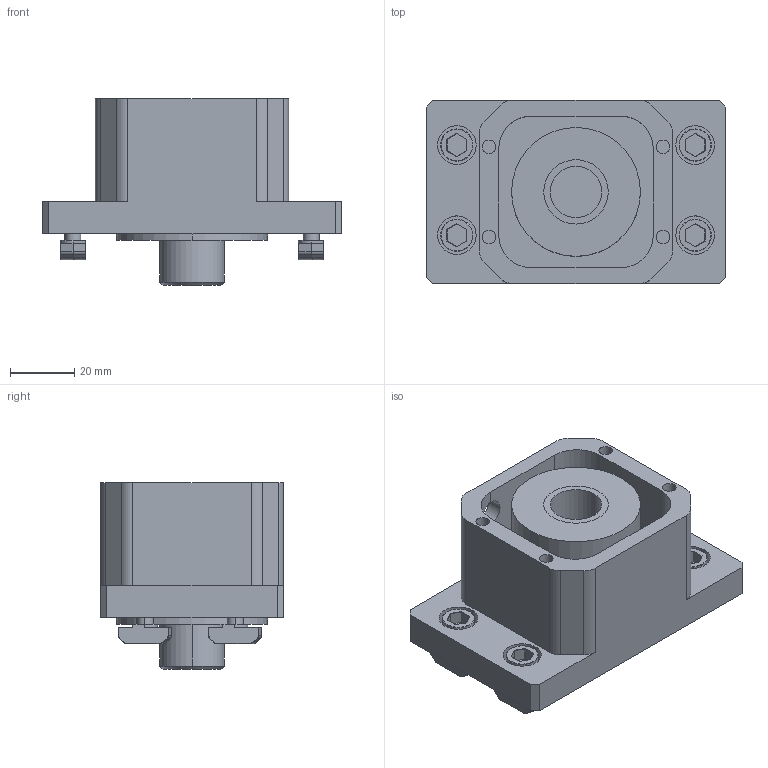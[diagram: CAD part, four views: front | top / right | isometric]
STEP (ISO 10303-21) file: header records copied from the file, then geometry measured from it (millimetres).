
FILE_DESCRIPTION((''),'2;1');
FILE_NAME('CK-60-X_ASM','2017-03-15T',('Owner'),(''),'PRO/ENGINEER BY PARAMETRIC TECHNOLOGY CORPORATION, 2009440','PRO/ENGINEER BY PARAMETRIC TECHNOLOGY CORPORATION, 2009440','');
FILE_SCHEMA(('CONFIG_CONTROL_DESIGN'));
Length unit declared in the file: millimetre
Products named in the file (4): CK-60-16; M6X10_COUNTERSINK; TN-M6; CK-60-X_ASM
Assembly tree (9 placements, depth 2):
  CK-60-X_ASM
    CK-60-16
    M6X10_COUNTERSINK  x4
    TN-M6  x4
Bounding box: 93 x 56.8 x 58 mm (x, y, z)
Volume: 129406.7 mm3; surface area: 39968.4 mm2
Topology: 9 solids, 10 shells, 501 faces, 1155 edges, 692 vertices
Faces by surface type: cylinder 232, plane 163, cone 42, sphere 24, torus 24, bspline 16
Entity records: 5898 total; most frequent: CARTESIAN_POINT 1298, DIRECTION 993, ORIENTED_EDGE 890, EDGE_CURVE 447, AXIS2_PLACEMENT_3D 378, VERTEX_POINT 278, VECTOR 237, LINE 237
